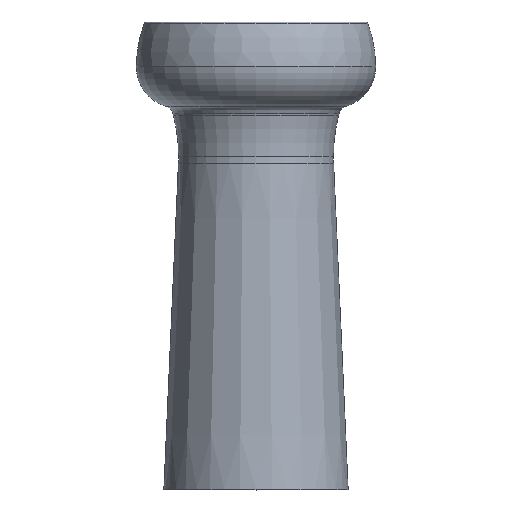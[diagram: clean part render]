
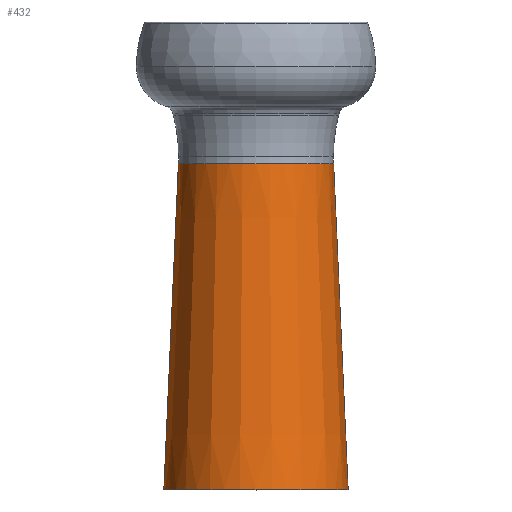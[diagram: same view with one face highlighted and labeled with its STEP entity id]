
A CAD part, top view. The second image highlights one B-rep face of the part: STEP entity #432.
In plain terms, the highlighted conical face has half-angle 2.553 degrees and reference radius 141.076 mm.
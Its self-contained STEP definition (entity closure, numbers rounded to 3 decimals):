
#2 = VERTEX_POINT ( 'NONE', #1720 ) ;
#44 = EDGE_CURVE ( 'NONE', #1043, #647, #1074, .T. ) ;
#66 = LINE ( 'NONE', #1889, #67 ) ;
#67 = VECTOR ( 'NONE', #646, 1000. ) ;
#101 = LINE ( 'NONE', #235, #420 ) ;
#147 = FACE_OUTER_BOUND ( 'NONE', #915, .T. ) ;
#159 = AXIS2_PLACEMENT_3D ( 'NONE', #1209, #443, #582 ) ;
#175 = CARTESIAN_POINT ( 'NONE',  ( 0., -257.255, 0. ) ) ;
#207 = DIRECTION ( 'NONE',  ( 0., 1., 0. ) ) ;
#235 = CARTESIAN_POINT ( 'NONE',  ( 141.076, -257.255, 0. ) ) ;
#276 = CARTESIAN_POINT ( 'NONE',  ( -141.076, -257.255, 0. ) ) ;
#330 = CARTESIAN_POINT ( 'NONE',  ( -167.5, -850., 0. ) ) ;
#420 = VECTOR ( 'NONE', #1278, 1000. ) ;
#432 = ADVANCED_FACE ( 'NONE', ( #147 ), #1034, .T. ) ;
#443 = DIRECTION ( 'NONE',  ( 0., -1., 0. ) ) ;
#582 = DIRECTION ( 'NONE',  ( 1., 0., 0. ) ) ;
#610 = EDGE_CURVE ( 'NONE', #1927, #1043, #66, .T. ) ;
#646 = DIRECTION ( 'NONE',  ( -0.045, -0.999, 0. ) ) ;
#647 = VERTEX_POINT ( 'NONE', #1114 ) ;
#831 = DIRECTION ( 'NONE',  ( -1., 0., 0. ) ) ;
#915 = EDGE_LOOP ( 'NONE', ( #1632, #1470, #1493, #1635 ) ) ;
#1034 = CONICAL_SURFACE ( 'NONE', #159, 141.076, 0.045 ) ;
#1043 = VERTEX_POINT ( 'NONE', #330 ) ;
#1074 = CIRCLE ( 'NONE', #1948, 167.5 ) ;
#1114 = CARTESIAN_POINT ( 'NONE',  ( 167.5, -850., 0. ) ) ;
#1186 = EDGE_CURVE ( 'NONE', #1927, #2, #1639, .T. ) ;
#1209 = CARTESIAN_POINT ( 'NONE',  ( 0., -257.255, 0. ) ) ;
#1252 = DIRECTION ( 'NONE',  ( -1., 0., 0. ) ) ;
#1278 = DIRECTION ( 'NONE',  ( 0.045, -0.999, 0. ) ) ;
#1409 = DIRECTION ( 'NONE',  ( 0., 1., 0. ) ) ;
#1470 = ORIENTED_EDGE ( 'NONE', *, *, #610, .T. ) ;
#1493 = ORIENTED_EDGE ( 'NONE', *, *, #44, .T. ) ;
#1632 = ORIENTED_EDGE ( 'NONE', *, *, #1186, .F. ) ;
#1635 = ORIENTED_EDGE ( 'NONE', *, *, #1816, .F. ) ;
#1639 = CIRCLE ( 'NONE', #1738, 141.076 ) ;
#1720 = CARTESIAN_POINT ( 'NONE',  ( 141.076, -257.255, 0. ) ) ;
#1727 = CARTESIAN_POINT ( 'NONE',  ( 0., -850., 0. ) ) ;
#1738 = AXIS2_PLACEMENT_3D ( 'NONE', #175, #1409, #1252 ) ;
#1816 = EDGE_CURVE ( 'NONE', #2, #647, #101, .T. ) ;
#1889 = CARTESIAN_POINT ( 'NONE',  ( -141.076, -257.255, 0. ) ) ;
#1927 = VERTEX_POINT ( 'NONE', #276 ) ;
#1948 = AXIS2_PLACEMENT_3D ( 'NONE', #1727, #207, #831 ) ;
